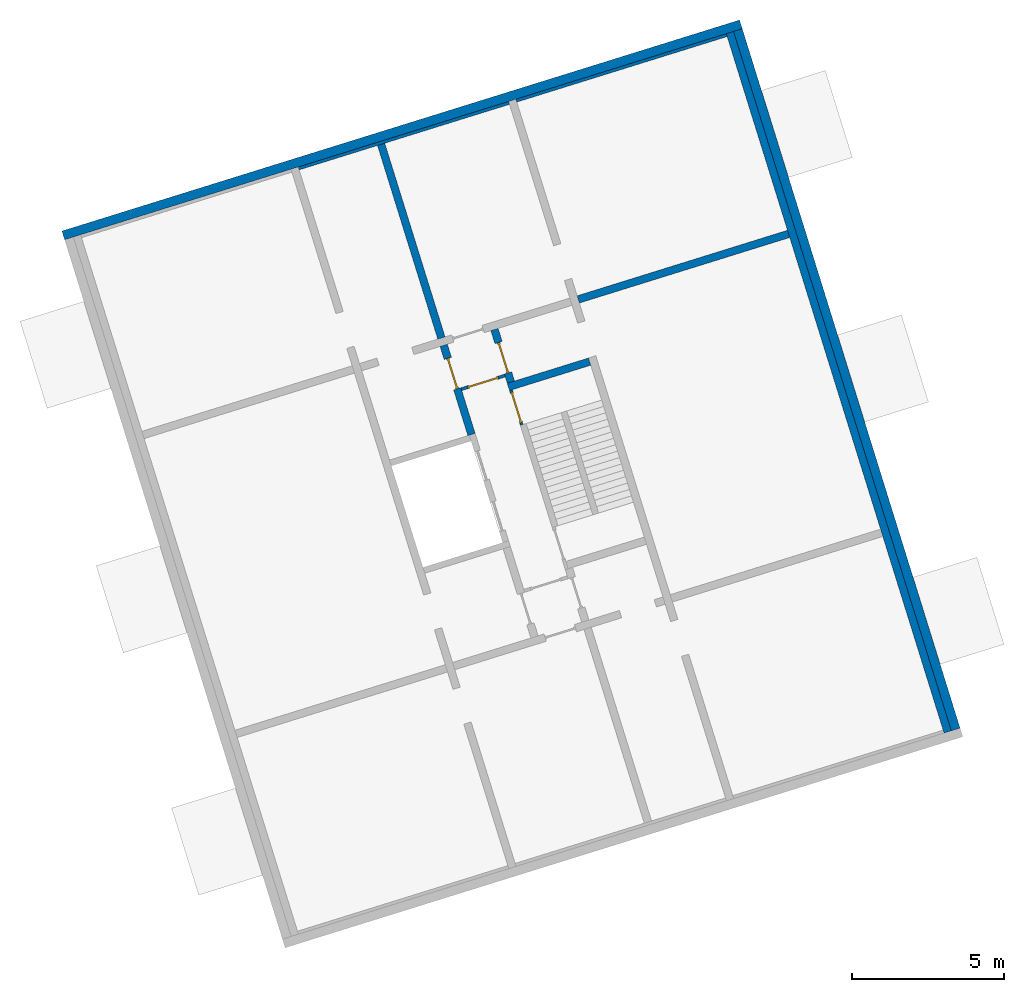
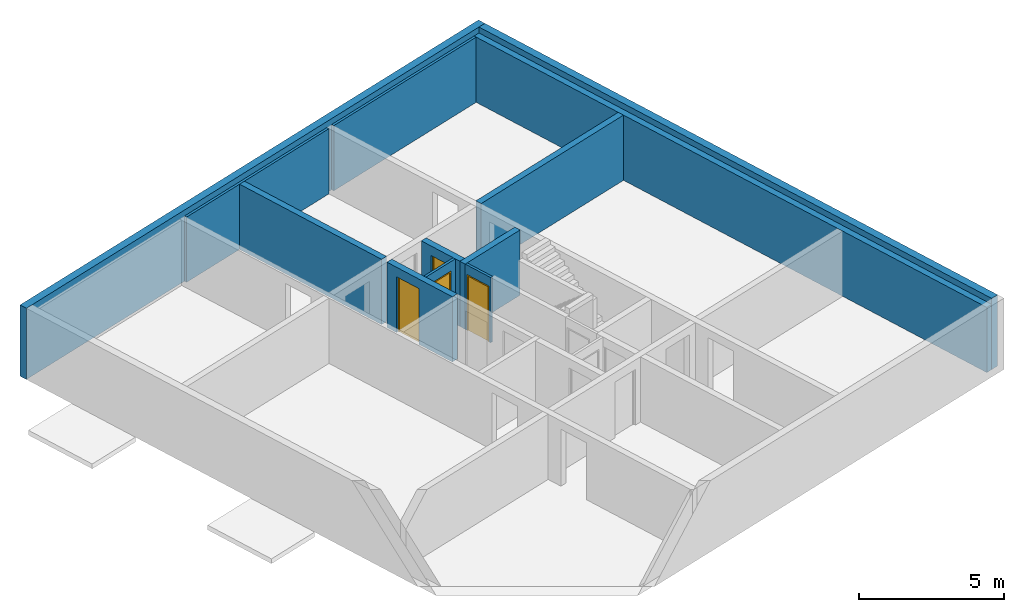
# One storey, part 2 of 4: 12 walls, 4 doors, 4 openings.
"""IFC4 building model written with IfcOpenShell, lengths in metres."""

from ifc_helpers import new_model, entity, si_unit, converted_unit, direction, frame, origin, place, context, subcontext, project, spatial, indexed_curve, outline, extrude, polygons, source, transform, mapped, material, constituent, constituent_set, type_object, type_shapes, element, fill, save


model = new_model("IFC4")

# Units and contexts
model_context = context("Model", 3, precision=1e-05, world=origin(), true_north=direction((6.12323399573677e-17, 1.0)))
body_context = subcontext(model_context, "Body", "Model", "MODEL_VIEW")
ifc_project = project(units=[si_unit("LENGTHUNIT", "METRE"), si_unit("AREAUNIT", "SQUARE_METRE"), si_unit("VOLUMEUNIT", "CUBIC_METRE"), converted_unit("PLANEANGLEUNIT", "DEGREE", entity("IfcPlaneAngleMeasure", 0.0174532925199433), si_unit("PLANEANGLEUNIT", "RADIAN"), dimensions=[0, 0, 0, 0, 0, 0, 0])], contexts=[model_context])

# Site, building, storey
site_placement = place(None, frame((13.1347999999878, 11.9886000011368, 0.0), z_axis=(0.0, 0.0, 1.0), x_axis=(0.954770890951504, 0.297342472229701, 0.0)))
site = spatial("IfcSite", under=ifc_project, at=site_placement, Name="Schiehaven", CompositionType="ELEMENT")
building_placement = place(site_placement, origin())
building = spatial("IfcBuilding", under=site, at=building_placement, Name="VORM huis", CompositionType="ELEMENT")
storey_placement = place(building_placement, frame((0.0, 0.0, 21.9)))
storey = spatial("IfcBuildingStorey", under=building, at=storey_placement, Name="07 zevende verdieping", CompositionType="ELEMENT", Elevation=21.9)

# Walls
ifc_material_1 = material(Name="beton_gewapend_ihw", Category="Miscellaneous")
wall_type_1 = type_object("IfcWallType", Name="Basic Wall:28_WA_skelet_wand 250mm_gen", PredefinedType="STANDARD")
wall_1_placement = place(storey_placement, frame((27.5, 5.0, 0.0), z_axis=(0.0, 0.0, 1.0), x_axis=(0.0, 1.0, 0.0)))
element("IfcWall", 1, at=wall_1_placement, inside=storey, type_object=wall_type_1, material=ifc_material_1, Name="Constructieve wand", ObjectType="Wand", PredefinedType="NOTDEFINED", context=body_context, shape_type="SweptSolid", body=[
    extrude(outline(indexed_curve([(24.1, 0.125000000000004), (4.21737840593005e-16, 0.125000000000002), (-4.21737840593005e-16, -0.125000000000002), (24.1, -0.125), (24.1, 0.125000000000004)], self_intersect=False)), origin(), (0.0, 0.0, 1.0), 2.75),
])
ifc_material_2 = material(Name="ntb_ntb_ntb", Category="Miscellaneous")
wall_type_2 = type_object("IfcWallType", Name="Basic Wall:21_WA_gevel_binnenspouwwand 100mm_gen", PredefinedType="STANDARD")
wall_2_placement = place(storey_placement, frame((19.8750000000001, 29.05, 0.0), z_axis=(0.0, 0.0, 1.0), x_axis=(-1.0, 0.0, 0.0)))
element("IfcWall", 2, at=wall_2_placement, inside=storey, type_object=wall_type_2, material=ifc_material_2, Name="Binnenspouwblad", ObjectType="Wand", PredefinedType="NOTDEFINED", context=body_context, shape_type="SweptSolid", body=[
    extrude(outline(indexed_curve([(7.24999999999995, 0.0500000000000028), (-8.07179175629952e-18, 0.0500000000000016), (8.07179175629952e-18, -0.0500000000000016), (7.24999999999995, -0.0500000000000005), (7.24999999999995, 0.0500000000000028)], self_intersect=False)), origin(), (0.0, 0.0, 1.0), 2.75),
])
wall_3_placement = place(storey_placement, frame((20.1250000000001, 29.05, 0.0)))
element("IfcWall", 3, at=wall_3_placement, inside=storey, type_object=wall_type_2, material=ifc_material_2, Name="Binnenspouwblad", ObjectType="Wand", PredefinedType="NOTDEFINED", context=body_context, shape_type="SweptSolid", body=[
    extrude(outline(indexed_curve([(7.24999999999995, 0.0500000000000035), (-1.62265042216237e-16, 0.0500000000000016), (1.62265042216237e-16, -0.0500000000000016), (7.24999999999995, -0.0499999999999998), (7.24999999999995, 0.0500000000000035)], self_intersect=False)), origin(), (0.0, 0.0, 1.0), 2.75),
])
wall_type_3 = type_object("IfcWallType", Name="Basic Wall: 300mm_gen", PredefinedType="STANDARD")
wall_4_placement = place(storey_placement, frame((27.7750000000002, 29.1, 0.0), z_axis=(0.0, 0.0, 1.0), x_axis=(0.0, -1.0, 0.0)))
element("IfcWall", 4, at=wall_4_placement, inside=storey, type_object=wall_type_3, material=ifc_material_2, Name="Gevelwand", ObjectType="Wand", PredefinedType="NOTDEFINED", context=body_context, shape_type="SweptSolid", body=[
    extrude(outline(indexed_curve([(24.1, 0.149999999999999), (-3.69735301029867e-16, 0.150000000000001), (3.69735301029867e-16, -0.150000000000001), (24.1, -0.150000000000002), (24.1, 0.149999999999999)], self_intersect=False)), origin(), (0.0, 0.0, 1.0), 3.0),
])
wall_5_placement = place(storey_placement, frame((4.57500000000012, 29.25, 0.0)))
element("IfcWall", 5, at=wall_5_placement, inside=storey, type_object=wall_type_3, material=ifc_material_2, Name="Gevelwand", ObjectType="Wand", PredefinedType="NOTDEFINED", context=body_context, shape_type="SweptSolid", body=[
    extrude(outline(indexed_curve([(23.35, 0.15), (1.58384323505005e-16, 0.150000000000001), (-1.58384323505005e-16, -0.150000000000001), (23.35, -0.150000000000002), (23.35, 0.15)], self_intersect=False)), origin(), (0.0, 0.0, 1.0), 3.0),
])
wall_type_4 = type_object("IfcWallType", Name="Basic Wall:22_WA_afbouw_binnenwand 250mm_gen", PredefinedType="STANDARD")
wall_6_placement = place(storey_placement, frame((19.8750000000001, 20.135, 0.0), z_axis=(0.0, 0.0, 1.0), x_axis=(-1.0, 0.0, 0.0)))
element("IfcWall", 6, at=wall_6_placement, inside=storey, type_object=wall_type_4, material=ifc_material_2, Name="Binnenwand", ObjectType="Wand", PredefinedType="NOTDEFINED", context=body_context, shape_type="SweptSolid", body=[
    extrude(outline(indexed_curve([(2.8, 0.125000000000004), (-4.9649652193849e-16, 0.125000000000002), (4.9649652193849e-16, -0.125000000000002), (2.80000000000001, -0.124999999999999), (2.8, 0.125000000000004)], self_intersect=False)), origin(), (0.0, 0.0, 1.0), 2.75),
])

# Wall, opening, door
wall_7_placement = place(storey_placement, frame((17.2000000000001, 20.26, 0.0), z_axis=(0.0, 0.0, 1.0), x_axis=(0.0, 1.0, 0.0)))
wall_7 = element("IfcWall", 7, at=wall_7_placement, inside=storey, type_object=wall_type_4, material=ifc_material_2, Name="Binnenwand", ObjectType="Wand", PredefinedType="NOTDEFINED", context=body_context, shape_type="Tessellation", body=[
    polygons([(0.0, -0.124999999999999, 0.0), (0.315000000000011, -0.124999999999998, 0.0), (0.315000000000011, -0.124999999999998, 2.34999999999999), (1.36500000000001, -0.125, 2.34999999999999), (1.36500000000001, -0.125, 0.0), (1.815, -0.125000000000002, 0.0), (1.815, -0.125000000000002, 2.75), (0.0, -0.124999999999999, 2.75), (0.315000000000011, 0.125, 2.34999999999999), (0.315000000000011, 0.125, 0.0), (0.215000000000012, 0.124999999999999, 0.0), (0.0, 0.125, 0.0), (0.0, 0.125, 2.75), (0.215000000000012, 0.124999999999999, 2.75), (0.315000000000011, 0.125, 2.75), (1.815, 0.125, 2.75), (1.815, 0.125, 0.0), (1.36500000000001, 0.124999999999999, 0.0), (1.36500000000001, 0.124999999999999, 2.34999999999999)], [[[1, 2, 3, 4, 5, 6, 7, 8]], [[9, 10, 11, 12, 13, 14, 15, 16, 17, 18, 19]], [[12, 11, 10, 2, 1]], [[7, 6, 17, 16]], [[8, 7, 16, 15, 14, 13]], [[5, 4, 19, 18]], [[3, 2, 10, 9]], [[4, 3, 9, 19]], [[1, 8, 13, 12]], [[18, 17, 6, 5]]], closed=True),
])
opening_1_placement = place(wall_7_placement, frame((0.315000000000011, -0.125000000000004, 0.0)))
opening_1 = element("IfcOpeningElement", 8, at=opening_1_placement, cuts=wall_7, Name="Woningtoegangsdeur", PredefinedType="OPENING", context=body_context, shape_type="SweptSolid", body=[
    extrude(outline(indexed_curve([(2.34999999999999, 1.05), (0.0, 1.05), (0.0, 0.0), (2.34999999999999, 0.0), (2.34999999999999, 1.05)], self_intersect=False)), frame((0.0, 0.0, 0.0), z_axis=(0.0, 1.0, 0.0), x_axis=(0.0, 0.0, 1.0)), (0.0, 0.0, 1.0), 0.25),
])
ifc_material_3 = material(Name="PD_a_binnenwandopeningen", Category="Miscellaneous")
ifc_constituent_1 = constituent(ifc_material_3, Name="PD_a_binnenwandopeningen", Category="Miscellaneous")
ifc_material_4 = material(Name="metaal_aluminium_ntb", Category="Miscellaneous")
ifc_constituent_2 = constituent(ifc_material_4, Name="metaal_aluminium_ntb", Category="Miscellaneous")
ifc_constituent_set_1 = constituent_set(constituents=[ifc_constituent_1, ifc_constituent_2])
ifc_constituent_3 = constituent(ifc_material_3, Name="PD_a_binnenwandopeningen", Category="Miscellaneous")
ifc_constituent_4 = constituent(ifc_material_4, Name="Panel", Category="Miscellaneous")
ifc_constituent_set_2 = constituent_set(constituents=[ifc_constituent_3, ifc_constituent_4])
door_type_1 = type_object("IfcDoorType", Name="32_DO_binnendeur enkel:woningtoegangsdeur", OperationType="REVOLVING", PredefinedType="DOOR", material=ifc_constituent_set_2)
shared_shape_1 = source(origin(), body_context, "Body", "SweptSolid", [
    extrude(outline(indexed_curve([(-1.16249999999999, -0.525000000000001), (1.18749999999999, -0.525), (1.18749999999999, 0.525000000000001), (-1.16249999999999, 0.525000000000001), (-1.16249999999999, 0.475), (1.13749999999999, 0.475), (1.13749999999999, -0.475), (-1.16249999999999, -0.475), (-1.16249999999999, -0.525000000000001)], self_intersect=False)), frame((0.525000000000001, 0.0749999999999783, 1.16249999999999), z_axis=(0.0, 1.0, 0.0), x_axis=(0.0, 0.0, 1.0)), (0.0, 0.0, 1.0), 0.1),
    extrude(outline(indexed_curve([(-0.025, -0.475), (0.025, -0.475), (0.025, 0.475), (-0.025, 0.475), (-0.025, -0.475)], self_intersect=False)), frame((0.525000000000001, 0.12499999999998, 0.0), z_axis=(0.0, 0.0, 1.0), x_axis=(0.0, 1.0, 0.0)), (0.0, 0.0, 1.0), 2.29999999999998),
])
type_shapes(door_type_1, [shared_shape_1])
door_1_placement = place(opening_1_placement, origin())
door_1 = element("IfcDoor", 9, at=door_1_placement, inside=storey, type_object=door_type_1, material=ifc_constituent_set_1, Name="Woningtoegangsdeur", ObjectType="Deur", OperationType="REVOLVING", OverallHeight=2.34999999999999, OverallWidth=1.05, PredefinedType="DOOR", context=body_context, shape_type="MappedRepresentation", body=[
    mapped(shared_shape_1, transform((0.0, 0.0, 0.0), scale=1.0)),
])
fill(opening_1, door_1)

wall_8_placement = place(storey_placement, frame((15.4500000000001, 19.0, 0.0), z_axis=(0.0, 0.0, 1.0), x_axis=(0.0, 1.0, 0.0)))
wall_8 = element("IfcWall", 10, at=wall_8_placement, inside=storey, type_object=wall_type_4, material=ifc_material_2, Name="Binnenwand", ObjectType="Wand", PredefinedType="NOTDEFINED", context=body_context, shape_type="Tessellation", body=[
    polygons([(2.62500000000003, -0.124999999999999, 2.34999999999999), (2.62500000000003, -0.124999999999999, 0.0), (3.075, -0.124999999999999, 0.0), (3.075, -0.124999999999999, 2.75), (1.575, -0.124999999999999, 2.75), (1.475, -0.124999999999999, 2.75), (2.16573425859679e-15, -0.124999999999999, 2.75), (2.16573425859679e-15, -0.124999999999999, 0.0), (1.475, -0.124999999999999, 0.0), (1.57500000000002, -0.124999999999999, 0.0), (1.57500000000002, -0.124999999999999, 2.34999999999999), (3.075, 0.125000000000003, 0.0), (2.62500000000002, 0.125, 0.0), (2.62500000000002, 0.125, 2.34999999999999), (1.57500000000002, 0.124999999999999, 2.34999999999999), (1.57500000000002, 0.124999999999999, 0.0), (0.0, 0.125000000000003, 0.0), (0.0, 0.125000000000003, 2.75), (3.075, 0.125000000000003, 2.75)], [[[1, 2, 3, 4, 5, 6, 7, 8, 9, 10, 11]], [[12, 13, 14, 15, 16, 17, 18, 19]], [[10, 9, 8, 17, 16]], [[4, 3, 12, 19]], [[7, 6, 5, 4, 19, 18]], [[8, 7, 18, 17]], [[16, 15, 11, 10]], [[14, 13, 2, 1]], [[15, 14, 1, 11]], [[3, 2, 13, 12]]], closed=True),
])
opening_2_placement = place(wall_8_placement, frame((2.62500000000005, 0.124999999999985, 0.0)))
opening_2 = element("IfcOpeningElement", 11, at=opening_2_placement, cuts=wall_8, Name="Woningtoegangsdeur", PredefinedType="OPENING", context=body_context, shape_type="SweptSolid", body=[
    extrude(outline(indexed_curve([(2.34999999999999, 1.05), (0.0, 1.05), (0.0, 0.0), (2.34999999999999, 0.0), (2.34999999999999, 1.05)], self_intersect=False)), frame((0.0, 0.0, 0.0), z_axis=(0.0, -1.0, 0.0), x_axis=(0.0, 0.0, 1.0)), (0.0, 0.0, 1.0), 0.25),
])
ifc_constituent_5 = constituent(ifc_material_3, Name="PD_a_binnenwandopeningen", Category="Miscellaneous")
ifc_constituent_6 = constituent(ifc_material_4, Name="metaal_aluminium_ntb", Category="Miscellaneous")
ifc_constituent_set_3 = constituent_set(constituents=[ifc_constituent_5, ifc_constituent_6])
door_2_placement = place(opening_2_placement, frame((0.0, 0.0, 0.0), z_axis=(0.0, 0.0, 1.0), x_axis=(-1.0, 0.0, 0.0)))
door_2 = element("IfcDoor", 12, at=door_2_placement, inside=storey, type_object=door_type_1, material=ifc_constituent_set_3, Name="Woningtoegangsdeur", ObjectType="Deur", OperationType="REVOLVING", OverallHeight=2.34999999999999, OverallWidth=1.05, PredefinedType="DOOR", context=body_context, shape_type="MappedRepresentation", body=[
    mapped(shared_shape_1, transform((0.0, 0.0, 0.0), scale=1.0)),
])
fill(opening_2, door_2)

# Walls
wall_9_placement = place(storey_placement, frame((15.4500000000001, 22.325, 0.0), z_axis=(0.0, 0.0, 1.0), x_axis=(0.0, 1.0, 0.0)))
element("IfcWall", 13, at=wall_9_placement, inside=storey, type_object=wall_type_4, material=ifc_material_2, Name="Binnenwand", ObjectType="Wand", PredefinedType="NOTDEFINED", context=body_context, shape_type="SweptSolid", body=[
    extrude(outline(indexed_curve([(6.67500000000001, 0.125), (-6.8946596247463e-16, 0.125), (6.8946596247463e-16, -0.125), (6.67500000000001, -0.125), (6.67500000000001, 0.125)], self_intersect=False)), origin(), (0.0, 0.0, 1.0), 2.75),
])
wall_10_placement = place(storey_placement, frame((20.125, 22.2, 0.0)))
element("IfcWall", 14, at=wall_10_placement, inside=storey, type_object=wall_type_4, material=ifc_material_2, Name="Binnenwand", ObjectType="Wand", PredefinedType="NOTDEFINED", context=body_context, shape_type="SweptSolid", body=[
    extrude(outline(indexed_curve([(7.24999999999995, 0.125000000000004), (-1.92055213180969e-16, 0.125000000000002), (1.92055213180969e-16, -0.125000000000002), (7.24999999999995, -0.124999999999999), (7.24999999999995, 0.125000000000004)], self_intersect=False)), origin(), (0.0, 0.0, 1.0), 2.75),
])

# Wall, opening, door
wall_type_5 = type_object("IfcWallType", Name="Basic Wall:22_WA_afbouw_binnenwand 100mm_gen", PredefinedType="STANDARD")
wall_11_placement = place(storey_placement, frame((17.1250000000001, 20.01, 0.0), z_axis=(0.0, 0.0, 1.0), x_axis=(0.0, -1.0, 0.0)))
wall_11 = element("IfcWall", 15, at=wall_11_placement, inside=storey, type_object=wall_type_5, material=ifc_material_2, Name="Binnenwand", ObjectType="Wand", PredefinedType="NOTDEFINED", context=body_context, shape_type="Tessellation", body=[
    polygons([(1.19999999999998, -0.050000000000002, 0.0), (1.19999999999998, -0.050000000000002, 2.75), (0.0, -0.0500000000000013, 2.75), (0.0, -0.0500000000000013, 0.0), (0.0749999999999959, -0.0500000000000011, 0.0), (0.0749999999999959, -0.0500000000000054, 2.34999999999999), (1.125, -0.0500000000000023, 2.34999999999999), (1.125, -0.0500000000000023, 0.0), (1.19999999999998, 0.0499999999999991, 2.75), (1.19999999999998, 0.0499999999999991, 0.0), (1.125, 0.0499999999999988, 0.0), (1.125, 0.0499999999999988, 2.34999999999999), (0.0749999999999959, 0.0499999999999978, 2.34999999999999), (0.0749999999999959, 0.0499999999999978, 0.0), (0.0, 0.0500000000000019, 0.0), (0.0, 0.0500000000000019, 2.75)], [[[1, 2, 3, 4, 5, 6, 7, 8]], [[9, 10, 11, 12, 13, 14, 15, 16]], [[4, 15, 14, 5]], [[2, 1, 10, 9]], [[3, 2, 9, 16]], [[4, 3, 16, 15]], [[13, 6, 5, 14]], [[6, 13, 12, 7]], [[7, 12, 11, 8]], [[10, 1, 8, 11]]], closed=True),
])
opening_3_placement = place(wall_11_placement, frame((0.0749999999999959, -0.0499999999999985, 0.0)))
opening_3 = element("IfcOpeningElement", 16, at=opening_3_placement, cuts=wall_11, Name="Vluchtdeur", PredefinedType="OPENING", context=body_context, shape_type="SweptSolid", body=[
    extrude(outline(indexed_curve([(2.34999999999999, 1.05), (0.0, 1.05), (0.0, -3.51974282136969e-30), (2.34999999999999, -3.51974282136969e-30), (2.34999999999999, 1.05)], self_intersect=False)), frame((0.0, 0.0, 0.0), z_axis=(0.0, 1.0, 0.0), x_axis=(0.0, 0.0, 1.0)), (0.0, 0.0, 1.0), 0.1),
])
ifc_constituent_7 = constituent(ifc_material_3, Name="PD_a_binnenwandopeningen", Category="Miscellaneous")
ifc_constituent_8 = constituent(ifc_material_4, Name="metaal_aluminium_ntb", Category="Miscellaneous")
ifc_constituent_set_4 = constituent_set(constituents=[ifc_constituent_7, ifc_constituent_8])
ifc_constituent_9 = constituent(ifc_material_3, Name="PD_a_binnenwandopeningen", Category="Miscellaneous")
ifc_constituent_10 = constituent(ifc_material_4, Name="Panel", Category="Miscellaneous")
ifc_constituent_set_5 = constituent_set(constituents=[ifc_constituent_9, ifc_constituent_10])
door_type_2 = type_object("IfcDoorType", Name="32_DO_binnendeur enkel:binnendeur zelfsluitend 30min", OperationType="NOTDEFINED", PredefinedType="DOOR", material=ifc_constituent_set_5)
shared_shape_2 = source(origin(), body_context, "Body", "SweptSolid", [
    extrude(outline(indexed_curve([(-1.16249999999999, -0.525000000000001), (1.18749999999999, -0.525), (1.18749999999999, 0.525), (-1.16249999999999, 0.525), (-1.16249999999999, 0.475), (1.13749999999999, 0.475), (1.13749999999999, -0.475), (-1.16249999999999, -0.475), (-1.16249999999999, -0.525000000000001)], self_intersect=False)), frame((0.525000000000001, 0.0, 1.16249999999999), z_axis=(0.0, 1.0, 0.0), x_axis=(0.0, 0.0, 1.0)), (0.0, 0.0, 1.0), 0.1),
    extrude(outline(indexed_curve([(-0.025, -0.475), (0.025, -0.475), (0.025, 0.475), (-0.025, 0.475), (-0.025, -0.475)], self_intersect=False)), frame((0.525000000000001, 0.0499999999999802, 0.0), z_axis=(0.0, 0.0, 1.0), x_axis=(0.0, 1.0, 0.0)), (0.0, 0.0, 1.0), 2.29999999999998),
])
type_shapes(door_type_2, [shared_shape_2])
door_3_placement = place(opening_3_placement, origin())
door_3 = element("IfcDoor", 17, at=door_3_placement, inside=storey, type_object=door_type_2, material=ifc_constituent_set_4, Name="Vluchtdeur", ObjectType="Deur", OperationType="NOTDEFINED", OverallHeight=2.34999999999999, OverallWidth=1.05, PredefinedType="DOOR", context=body_context, shape_type="MappedRepresentation", body=[
    mapped(shared_shape_2, transform((0.0, 0.0, 0.0), scale=1.0)),
])
fill(opening_3, door_3)

wall_12_placement = place(storey_placement, frame((17.0750000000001, 20.525, 0.0), z_axis=(0.0, 0.0, 1.0), x_axis=(-1.0, 0.0, 0.0)))
wall_12 = element("IfcWall", 18, at=wall_12_placement, inside=storey, type_object=wall_type_5, material=ifc_material_2, Name="Binnenwand", ObjectType="Wand", PredefinedType="NOTDEFINED", context=body_context, shape_type="Tessellation", body=[
    polygons([(1.50000000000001, -0.0499999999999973, 2.75), (7.85851977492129e-16, -0.0499999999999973, 2.75), (7.85851977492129e-16, -0.0499999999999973, 2.34999999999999), (7.85851977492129e-16, -0.0499999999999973, 0.0), (0.224999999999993, -0.0499999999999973, 0.0), (0.224999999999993, -0.0499999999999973, 2.34999999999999), (1.27499999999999, -0.0499999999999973, 2.34999999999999), (1.27499999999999, -0.0499999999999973, 0.0), (1.50000000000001, -0.0499999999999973, 0.0), (1.50000000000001, -0.0499999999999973, 2.34999999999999), (8.45188811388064e-16, 0.0500000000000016, 2.75), (1.50000000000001, 0.0500000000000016, 2.75), (1.50000000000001, 0.0500000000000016, 0.0), (1.27499999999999, 0.0500000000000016, 0.0), (1.27499999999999, 0.0500000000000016, 2.34999999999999), (0.224999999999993, 0.0500000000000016, 2.34999999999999), (0.224999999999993, 0.0500000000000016, 0.0), (8.45188811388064e-16, 0.0500000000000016, 0.0)], [[[1, 2, 3, 4, 5, 6, 7, 8, 9, 10]], [[11, 12, 13, 14, 15, 16, 17, 18]], [[4, 18, 17, 5]], [[2, 1, 12, 11]], [[16, 6, 5, 17]], [[6, 16, 15, 7]], [[7, 15, 14, 8]], [[4, 3, 2, 11, 18]], [[1, 10, 9, 13, 12]], [[13, 9, 8, 14]]], closed=True),
])
opening_4_placement = place(wall_12_placement, frame((0.224999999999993, -0.0500000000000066, 0.0)))
opening_4 = element("IfcOpeningElement", 19, at=opening_4_placement, cuts=wall_12, Name="Vluchtdeur", PredefinedType="OPENING", context=body_context, shape_type="SweptSolid", body=[
    extrude(outline(indexed_curve([(2.34999999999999, 1.05), (0.0, 1.05), (0.0, 1.35358391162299e-15), (2.34999999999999, 1.35358391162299e-15), (2.34999999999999, 1.05)], self_intersect=False)), frame((0.0, 0.0, 0.0), z_axis=(0.0, 1.0, 0.0), x_axis=(0.0, 0.0, 1.0)), (0.0, 0.0, 1.0), 0.1),
])
ifc_constituent_11 = constituent(ifc_material_3, Name="PD_a_binnenwandopeningen", Category="Miscellaneous")
ifc_constituent_12 = constituent(ifc_material_4, Name="metaal_aluminium_ntb", Category="Miscellaneous")
ifc_constituent_set_6 = constituent_set(constituents=[ifc_constituent_11, ifc_constituent_12])
door_4_placement = place(opening_4_placement, origin())
door_4 = element("IfcDoor", 20, at=door_4_placement, inside=storey, type_object=door_type_2, material=ifc_constituent_set_6, Name="Vluchtdeur", ObjectType="Deur", OperationType="NOTDEFINED", OverallHeight=2.34999999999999, OverallWidth=1.05, PredefinedType="DOOR", context=body_context, shape_type="MappedRepresentation", body=[
    mapped(shared_shape_2, transform((0.0, 0.0, 0.0), scale=1.0)),
])
fill(opening_4, door_4)

save(model, "model.ifc")
